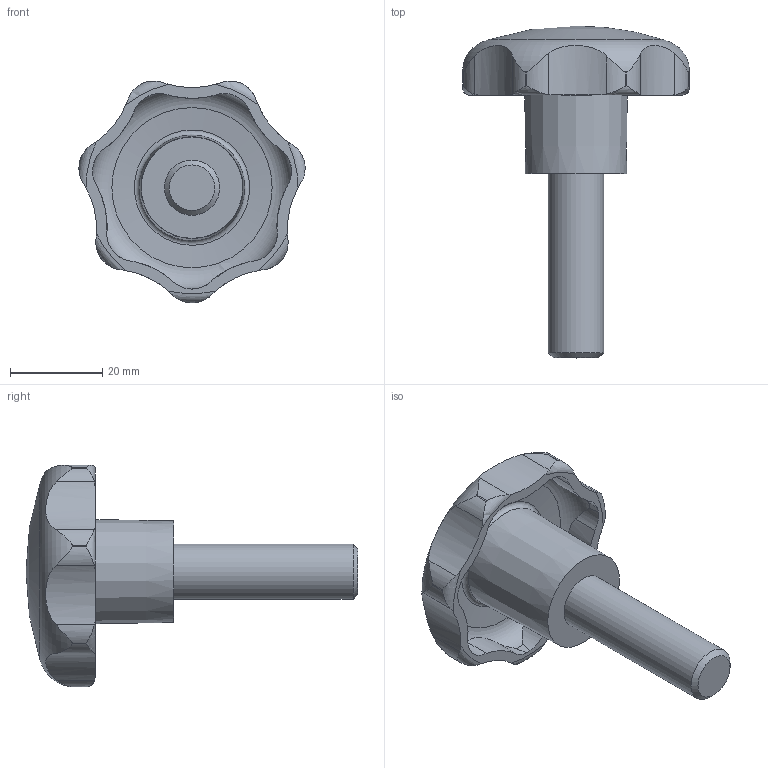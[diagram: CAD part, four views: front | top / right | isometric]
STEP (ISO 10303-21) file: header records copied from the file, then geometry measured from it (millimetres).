
FILE_DESCRIPTION( ( 'STEP AP203' ), '1' );
FILE_NAME( 'C:/Temp/Ganter_Step_05_03_2020/data/2_2/gn_6336_4/gn_6336_4_st/Star knob GN 6336.4-ST-50-M12-40.stp', '2020-03-05T12:07:42', ( 'License CC BY-ND 4.0' ), ( 'CADENAS' ), ' ', 'PARTsolutions', ' ' );
FILE_SCHEMA( ( 'CONFIG_CONTROL_DESIGN' ) );
Length unit declared in the file: millimetre
Products named in the file (1): _Star knob GN 6336.4-ST-50-M12-40
Bounding box: 49.04 x 72 x 48.12 mm (x, y, z)
Volume: 25663.9 mm3; surface area: 8950.1 mm2
Topology: 1 solids, 1 shells, 74 faces, 209 edges, 138 vertices
Faces by surface type: cylinder 50, torus 10, cone 10, plane 3, sphere 1
Full cylindrical faces by diameter (mm): 12 x1
Entity records: 3234 total; most frequent: CARTESIAN_POINT 1425, ORIENTED_EDGE 394, DIRECTION 334, EDGE_CURVE 197, AXIS2_PLACEMENT_3D 146, VERTEX_POINT 135, B_SPLINE_CURVE_WITH_KNOTS 84, EDGE_LOOP 83
